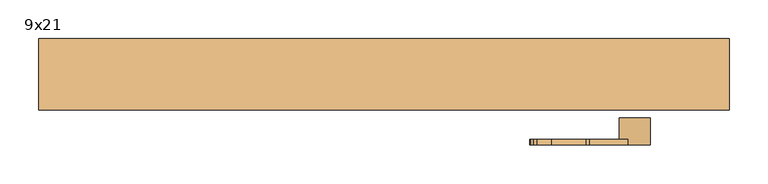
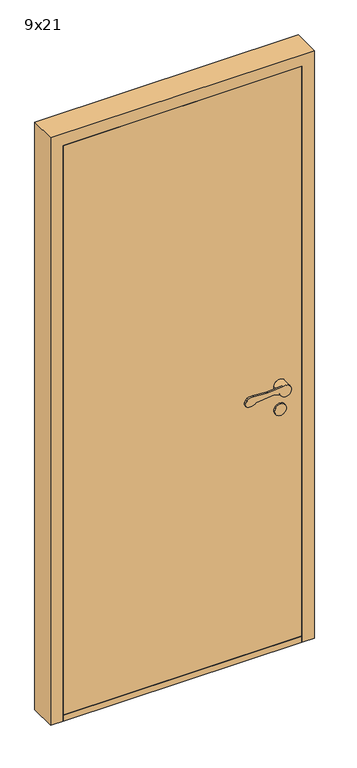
"""IFC4 building model written with IfcOpenShell, lengths in millimetres: door geometry, Innerdør Slett (Diplomat) : 9x21."""

from ifc_helpers import new_model, si_unit, point, frame, frame_2d, origin, origin_with_axes, place, context, project, spatial, polyline, circle_curve, trimmed, segment, composite_curve, outline, extrude, source, transform, mapped, element, save
from ifc_brep_helpers import plane_surface, cylinder_surface, revolved_surface, advanced_brep


def door_9x21_44255de1(model_context):
    return source(origin(), model_context, "Body", "SolidModel", [
        advanced_brep(
        [(343.9611305, 30.0, 949.1175955), (338.8520664, 30.0, 949.9496913), (276.0476109, 30.0, 943.6260011), (246.721536, 30.0, 938.7393398), (241.8691983, 30.0, 951.8913379), (245.505009, 30.0, 959.9624074), (250.3175669, 30.0, 964.8810513), (268.8963175, 30.0, 967.2639242), (313.6202158, 30.0, 964.1804415), (318.6891233, 30.0, 964.26032), (367.2687793, 30.0, 969.1517356), (396.379633, 30.0, 951.3474568), (358.3841161, 30.0, 942.6204086), (318.6891233, 22.8915284, 964.26032), (313.6202158, 22.8915284, 964.1804415), (268.8963175, 22.8915284, 967.2639242), (250.3175669, 22.8915284, 964.8810513), (245.505009, 22.8915284, 959.9624074), (241.8691983, 22.8915284, 951.8913379), (246.721536, 22.8915284, 938.7393398), (276.0476109, 22.8915284, 943.6260011), (338.8520664, 22.8915284, 949.9496913), (343.9611305, 22.8915284, 949.1175955), (358.3841161, 22.8915284, 942.6204086), (356.379633, 22.8915284, 951.3474568), (367.2687793, 22.8915284, 969.1517356), (396.379633, -5.0, 951.3474568), (356.379633, -5.0, 951.3474568)],
        [
            (0, 1, circle_curve(frame((339.8538865, 30.0, 940.0), z_axis=(0.0, -1.0, 0.0), x_axis=(-0.9949691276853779, 0.0, -0.10018200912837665)), 10.0)),
            (1, 2),
            (2, 3, circle_curve(frame((257.8569644, 30.0, 962.352734), z_axis=(0.0, 1.0, 0.0), x_axis=(-0.9949691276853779, 0.0, -0.10018200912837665)), 26.1072815)),
            (3, 4, circle_curve(frame((250.9867937, 30.0, 947.7840939), z_axis=(0.0, 1.0, 0.0), x_axis=(-0.9949691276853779, 0.0, -0.10018200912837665)), 10.0)),
            (4, 5),
            (5, 6, circle_curve(frame((254.6226045, 30.0, 955.8551634), z_axis=(0.0, 1.0, 0.0), x_axis=(-0.9949691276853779, 0.0, -0.10018200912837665)), 10.0)),
            (6, 7, circle_curve(frame((263.2326797, 30.0, 937.8033877), z_axis=(0.0, 1.0, 0.0), x_axis=(-0.9949691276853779, 0.0, -0.10018200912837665)), 30.0)),
            (7, 8),
            (8, 9, circle_curve(frame((315.683663, 30.0, 994.1093938), z_axis=(0.0, -1.0, 0.0), x_axis=(-0.9949691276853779, 0.0, -0.10018200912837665)), 30.0)),
            (9, 10),
            (10, 11, circle_curve(frame((376.379633, 30.0, 951.3474568), z_axis=(0.0, 1.0, 0.0), x_axis=(-1.0, 0.0, 0.0)), 20.0)),
            (11, 12, circle_curve(frame((376.379633, 30.0, 951.3474568), z_axis=(0.0, 1.0, 0.0), x_axis=(-1.0, 0.0, 0.0)), 20.0)),
            (12, 0),
            (13, 14, circle_curve(frame((315.683663, 22.8915284, 994.1093938), z_axis=(0.0, 1.0, 0.0), x_axis=(-0.9949691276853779, 0.0, -0.10018200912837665)), 30.0)),
            (14, 15),
            (15, 16, circle_curve(frame((263.2326797, 22.8915284, 937.8033877), z_axis=(0.0, -1.0, 0.0), x_axis=(-0.9949691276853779, 0.0, -0.10018200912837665)), 30.0)),
            (16, 17, circle_curve(frame((254.6226045, 22.8915284, 955.8551634), z_axis=(0.0, -1.0, 0.0), x_axis=(-0.9949691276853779, 0.0, -0.10018200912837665)), 10.0)),
            (17, 18),
            (18, 19, circle_curve(frame((250.9867937, 22.8915284, 947.7840939), z_axis=(0.0, -1.0, 0.0), x_axis=(-0.9949691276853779, 0.0, -0.10018200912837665)), 10.0)),
            (19, 20, circle_curve(frame((257.8569644, 22.8915284, 962.352734), z_axis=(0.0, -1.0, 0.0), x_axis=(-0.9949691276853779, 0.0, -0.10018200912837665)), 26.1072815)),
            (20, 21),
            (21, 22, circle_curve(frame((339.8538865, 22.8915284, 940.0), z_axis=(0.0, 1.0, 0.0), x_axis=(-0.9949691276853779, 0.0, -0.10018200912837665)), 10.0)),
            (22, 23),
            (23, 24, circle_curve(frame((376.379633, 22.8915284, 951.3474568), z_axis=(0.0, 1.0, 0.0), x_axis=(-1.0, 0.0, 0.0)), 20.0)),
            (24, 25, circle_curve(frame((376.379633, 22.8915284, 951.3474568), z_axis=(0.0, 1.0, 0.0), x_axis=(-1.0, 0.0, 0.0)), 20.0)),
            (25, 13),
            (9, 13),
            (25, 10),
            (22, 0),
            (12, 23),
            (21, 1),
            (20, 2),
            (19, 3),
            (18, 4),
            (17, 5),
            (16, 6),
            (15, 7),
            (14, 8),
            (26, 27, circle_curve(frame((376.379633, -5.0, 951.3474568), z_axis=(0.0, -1.0, 0.0), x_axis=(-1.0, 0.0, 0.0)), 20.0)),
            (27, 26, circle_curve(frame((376.379633, -5.0, 951.3474568), z_axis=(0.0, -1.0, 0.0), x_axis=(-1.0, 0.0, 0.0)), 20.0)),
            (27, 24),
            (11, 26),
        ],
        [
            plane_surface(frame((367.6960588, 30.0, 969.1947577), z_axis=(0.0, 1.0000000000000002, 0.0), x_axis=(0.9949691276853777, 0.0, 0.10018200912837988))),
            plane_surface(frame((367.6960588, 22.8915284, 969.1947577), z_axis=(0.0, -1.0000000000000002, 0.0), x_axis=(-0.9949691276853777, 0.0, -0.10018200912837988))),
            plane_surface(frame((318.6891233, 30.0, 964.26032), z_axis=(-0.10018200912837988, 0.0, 0.9949691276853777), x_axis=(0.0, -1.0, 0.0))),
            plane_surface(frame((376.9687366, 30.0, 934.2485115), z_axis=(-0.41072439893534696, 0.0, -0.91175954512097), x_axis=(0.0, -1.0, 0.0))),
            revolved_surface(polyline([(329.9041952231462, 22.8915284, 938.9981799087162), (329.9041952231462, 30.0, 938.9981799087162)]), (339.8538865, 22.8915284, 940.0), (0.0, -1.0, 0.0)),
            plane_surface(frame((338.8520664, 30.0, 949.9496913), z_axis=(0.10018200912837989, 0.0, -0.9949691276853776), x_axis=(0.0, -1.0, 0.0))),
            cylinder_surface(frame((257.8569644, 22.8915284, 962.352734), z_axis=(0.0, 1.0, 0.0), x_axis=(-0.9949691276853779, 0.0, -0.10018200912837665)), 26.1072815),
            cylinder_surface(frame((250.9867937, 22.8915284, 947.7840939), z_axis=(0.0, 1.0, 0.0), x_axis=(-0.9949691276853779, 0.0, -0.10018200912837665)), 10.0),
            plane_surface(frame((241.8691983, 30.0, 951.8913379), z_axis=(-0.9117595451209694, 0.0, 0.41072439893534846), x_axis=(0.0, -1.0, 0.0))),
            cylinder_surface(frame((254.6226045, 22.8915284, 955.8551634), z_axis=(0.0, 1.0, 0.0), x_axis=(-0.9949691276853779, 0.0, -0.10018200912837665)), 10.0),
            cylinder_surface(frame((263.2326797, 22.8915284, 937.8033877), z_axis=(0.0, 1.0, 0.0), x_axis=(-0.9949691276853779, 0.0, -0.10018200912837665)), 30.0),
            plane_surface(frame((268.8963175, 30.0, 967.2639242), z_axis=(0.06878157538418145, 0.0, 0.9976317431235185), x_axis=(0.0, -1.0, 0.0))),
            revolved_surface(polyline([(285.8345891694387, 22.8915284, 991.1039335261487), (285.8345891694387, 30.0, 991.1039335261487)]), (315.683663, 22.8915284, 994.1093938), (0.0, -1.0, 0.0)),
            plane_surface(frame((356.379633, -5.0, 951.3474568), z_axis=(0.0, -1.0, 0.0), x_axis=(0.0, 0.0, -1.0))),
            cylinder_surface(frame((376.379633, -5.0, 951.3474568), z_axis=(0.0, 1.0, 0.0), x_axis=(-1.0, 0.0, 0.0)), 20.0),
        ],
        [
            (0, [[1, 2, 3, 4, 5, 6, 7, 8, 9, 10, 11, 12, 13]]),
            (1, [[14, 15, 16, 17, 18, 19, 20, 21, 22, 23, 24, 25, 26]]),
            (2, [[27, -26, 28, -10]]),
            (3, [[29, -13, 30, -23]]),
            (4, [[-1, -29, -22, 31]]),
            (5, [[-2, -31, -21, 32]]),
            (6, [[-3, -32, -20, 33]]),
            (7, [[-4, -33, -19, 34]]),
            (8, [[-5, -34, -18, 35]]),
            (9, [[-6, -35, -17, 36]]),
            (10, [[-7, -36, -16, 37]]),
            (11, [[-8, -37, -15, 38]]),
            (12, [[-9, -38, -14, -27]]),
            (13, [[39, 40]]),
            (14, [[-40, 41, -24, -30, -12, 42]]),
            (14, [[-39, -42, -11, -28, -25, -41]]),
        ],
    ),
        extrude(outline(composite_curve([segment(trimmed(circle_curve(frame_2d((866.3474568, 376.379633)), 20.0), [point((866.3474568, 396.379633))], [point((866.3474568, 356.379633))], False, "CARTESIAN"), True, "CONTINUOUS"), segment(trimmed(circle_curve(frame_2d((866.3474568, 376.379633)), 20.0), [point((866.3474568, 356.379633))], [point((866.3474568, 396.379633))], False, "CARTESIAN"), True, "CONTINUOUS")], self_intersect=False)), frame((0.0, -5.0, 0.0), z_axis=(0.0, 1.0, 0.0), x_axis=(0.0, 0.0, 1.0)), (0.0, 0.0, 1.0), 5.0),
        advanced_brep(
        [(343.9611305, -100.0, 949.1175955), (358.3841161, -100.0, 942.6204086), (396.379633, -100.0, 951.3474568), (367.2687793, -100.0, 969.1517356), (318.6891233, -100.0, 964.26032), (313.6202158, -100.0, 964.1804415), (268.8963175, -100.0, 967.2639242), (250.3175669, -100.0, 964.8810513), (245.505009, -100.0, 959.9624074), (241.8691983, -100.0, 951.8913379), (246.721536, -100.0, 938.7393398), (276.0476109, -100.0, 943.6260011), (338.8520664, -100.0, 949.9496913), (318.6891233, -92.8915284, 964.26032), (367.2687793, -92.8915284, 969.1517356), (356.379633, -92.8915284, 951.3474568), (358.3841161, -92.8915284, 942.6204086), (343.9611305, -92.8915284, 949.1175955), (338.8520664, -92.8915284, 949.9496913), (276.0476109, -92.8915284, 943.6260011), (246.721536, -92.8915284, 938.7393398), (241.8691983, -92.8915284, 951.8913379), (245.505009, -92.8915284, 959.9624074), (250.3175669, -92.8915284, 964.8810513), (268.8963175, -92.8915284, 967.2639242), (313.6202158, -92.8915284, 964.1804415), (396.379633, -65.0, 951.3474568), (356.379633, -65.0, 951.3474568)],
        [
            (0, 1),
            (1, 2, circle_curve(frame((376.379633, -100.0, 951.3474568), z_axis=(0.0, -1.0, 0.0), x_axis=(-1.0, 0.0, 0.0)), 20.0)),
            (2, 3, circle_curve(frame((376.379633, -100.0, 951.3474568), z_axis=(0.0, -1.0, 0.0), x_axis=(-1.0, 0.0, 0.0)), 20.0)),
            (3, 4),
            (4, 5, circle_curve(frame((315.683663, -100.0, 994.1093938), z_axis=(0.0, 1.0, 0.0), x_axis=(-0.9949691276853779, 0.0, -0.10018200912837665)), 30.0)),
            (5, 6),
            (6, 7, circle_curve(frame((263.2326797, -100.0, 937.8033877), z_axis=(0.0, -1.0, 0.0), x_axis=(-0.9949691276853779, 0.0, -0.10018200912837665)), 30.0)),
            (7, 8, circle_curve(frame((254.6226045, -100.0, 955.8551634), z_axis=(0.0, -1.0, 0.0), x_axis=(-0.9949691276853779, 0.0, -0.10018200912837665)), 10.0)),
            (8, 9),
            (9, 10, circle_curve(frame((250.9867937, -100.0, 947.7840939), z_axis=(0.0, -1.0, 0.0), x_axis=(-0.9949691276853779, 0.0, -0.10018200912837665)), 10.0)),
            (10, 11, circle_curve(frame((257.8569644, -100.0, 962.352734), z_axis=(0.0, -1.0, 0.0), x_axis=(-0.9949691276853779, 0.0, -0.10018200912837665)), 26.1072815)),
            (11, 12),
            (12, 0, circle_curve(frame((339.8538865, -100.0, 940.0), z_axis=(0.0, 1.0, 0.0), x_axis=(-0.9949691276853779, 0.0, -0.10018200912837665)), 10.0)),
            (13, 14),
            (14, 15, circle_curve(frame((376.379633, -92.8915284, 951.3474568), z_axis=(0.0, -1.0, 0.0), x_axis=(-1.0, 0.0, 0.0)), 20.0)),
            (15, 16, circle_curve(frame((376.379633, -92.8915284, 951.3474568), z_axis=(0.0, -1.0, 0.0), x_axis=(-1.0, 0.0, 0.0)), 20.0)),
            (16, 17),
            (17, 18, circle_curve(frame((339.8538865, -92.8915284, 940.0), z_axis=(0.0, -1.0, 0.0), x_axis=(-0.9949691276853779, 0.0, -0.10018200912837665)), 10.0)),
            (18, 19),
            (19, 20, circle_curve(frame((257.8569644, -92.8915284, 962.352734), z_axis=(0.0, 1.0, 0.0), x_axis=(-0.9949691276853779, 0.0, -0.10018200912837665)), 26.1072815)),
            (20, 21, circle_curve(frame((250.9867937, -92.8915284, 947.7840939), z_axis=(0.0, 1.0, 0.0), x_axis=(-0.9949691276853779, 0.0, -0.10018200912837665)), 10.0)),
            (21, 22),
            (22, 23, circle_curve(frame((254.6226045, -92.8915284, 955.8551634), z_axis=(0.0, 1.0, 0.0), x_axis=(-0.9949691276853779, 0.0, -0.10018200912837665)), 10.0)),
            (23, 24, circle_curve(frame((263.2326797, -92.8915284, 937.8033877), z_axis=(0.0, 1.0, 0.0), x_axis=(-0.9949691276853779, 0.0, -0.10018200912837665)), 30.0)),
            (24, 25),
            (25, 13, circle_curve(frame((315.683663, -92.8915284, 994.1093938), z_axis=(0.0, -1.0, 0.0), x_axis=(-0.9949691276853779, 0.0, -0.10018200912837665)), 30.0)),
            (3, 14),
            (13, 4),
            (16, 1),
            (0, 17),
            (12, 18),
            (11, 19),
            (10, 20),
            (9, 21),
            (8, 22),
            (7, 23),
            (6, 24),
            (5, 25),
            (26, 27, circle_curve(frame((376.379633, -65.0, 951.3474568), z_axis=(0.0, 1.0, 0.0), x_axis=(-1.0, 0.0, 0.0)), 20.0)),
            (27, 26, circle_curve(frame((376.379633, -65.0, 951.3474568), z_axis=(0.0, 1.0, 0.0), x_axis=(-1.0, 0.0, 0.0)), 20.0)),
            (26, 2),
            (15, 27),
        ],
        [
            plane_surface(frame((367.6960588, -100.0, 969.1947577), z_axis=(0.0, -1.0000000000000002, 0.0), x_axis=(0.9949691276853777, 0.0, 0.10018200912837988))),
            plane_surface(frame((367.6960588, -92.8915284, 969.1947577), z_axis=(0.0, 1.0000000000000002, 0.0), x_axis=(-0.9949691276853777, 0.0, -0.10018200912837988))),
            plane_surface(frame((318.6891233, -100.0, 964.26032), z_axis=(-0.10018200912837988, 0.0, 0.9949691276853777), x_axis=(0.0, 1.0, 0.0))),
            plane_surface(frame((376.9687366, -100.0, 934.2485115), z_axis=(-0.41072439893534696, 0.0, -0.91175954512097), x_axis=(0.0, 1.0, 0.0))),
            revolved_surface(polyline([(329.9041952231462, -92.8915284, 938.9981799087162), (329.9041952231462, -100.0, 938.9981799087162)]), (339.8538865, -92.8915284, 940.0), (0.0, 1.0, 0.0)),
            plane_surface(frame((338.8520664, -100.0, 949.9496913), z_axis=(0.10018200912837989, 0.0, -0.9949691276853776), x_axis=(0.0, 1.0, 0.0))),
            cylinder_surface(frame((257.8569644, -92.8915284, 962.352734), z_axis=(0.0, -1.0, 0.0), x_axis=(-0.9949691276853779, 0.0, -0.10018200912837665)), 26.1072815),
            cylinder_surface(frame((250.9867937, -92.8915284, 947.7840939), z_axis=(0.0, -1.0, 0.0), x_axis=(-0.9949691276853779, 0.0, -0.10018200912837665)), 10.0),
            plane_surface(frame((241.8691983, -100.0, 951.8913379), z_axis=(-0.9117595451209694, 0.0, 0.41072439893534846), x_axis=(0.0, 1.0, 0.0))),
            cylinder_surface(frame((254.6226045, -92.8915284, 955.8551634), z_axis=(0.0, -1.0, 0.0), x_axis=(-0.9949691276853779, 0.0, -0.10018200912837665)), 10.0),
            cylinder_surface(frame((263.2326797, -92.8915284, 937.8033877), z_axis=(0.0, -1.0, 0.0), x_axis=(-0.9949691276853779, 0.0, -0.10018200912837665)), 30.0),
            plane_surface(frame((268.8963175, -100.0, 967.2639242), z_axis=(0.06878157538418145, 0.0, 0.9976317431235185), x_axis=(0.0, 1.0, 0.0))),
            revolved_surface(polyline([(285.8345891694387, -92.8915284, 991.1039335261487), (285.8345891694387, -100.0, 991.1039335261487)]), (315.683663, -92.8915284, 994.1093938), (0.0, 1.0, 0.0)),
            plane_surface(frame((356.379633, -65.0, 951.3474568), z_axis=(0.0, 1.0, 0.0), x_axis=(0.0, 0.0, -1.0))),
            cylinder_surface(frame((376.379633, -65.0, 951.3474568), z_axis=(0.0, -1.0, 0.0), x_axis=(-1.0, 0.0, 0.0)), 20.0),
        ],
        [
            (0, [[1, 2, 3, 4, 5, 6, 7, 8, 9, 10, 11, 12, 13]]),
            (1, [[14, 15, 16, 17, 18, 19, 20, 21, 22, 23, 24, 25, 26]]),
            (2, [[-4, 27, -14, 28]]),
            (3, [[-17, 29, -1, 30]]),
            (4, [[31, -18, -30, -13]]),
            (5, [[32, -19, -31, -12]]),
            (6, [[33, -20, -32, -11]]),
            (7, [[34, -21, -33, -10]]),
            (8, [[35, -22, -34, -9]]),
            (9, [[36, -23, -35, -8]]),
            (10, [[37, -24, -36, -7]]),
            (11, [[38, -25, -37, -6]]),
            (12, [[-28, -26, -38, -5]]),
            (13, [[39, 40]]),
            (14, [[41, -2, -29, -16, 42, -39]]),
            (14, [[-42, -15, -27, -3, -41, -40]]),
        ],
    ),
        extrude(outline(composite_curve([segment(trimmed(circle_curve(frame_2d((866.3474568, 376.379633)), 20.0), [point((866.3474568, 396.379633))], [point((866.3474568, 356.379633))], False, "CARTESIAN"), True, "CONTINUOUS"), segment(trimmed(circle_curve(frame_2d((866.3474568, 376.379633)), 20.0), [point((866.3474568, 356.379633))], [point((866.3474568, 396.379633))], False, "CARTESIAN"), True, "CONTINUOUS")], self_intersect=False)), frame((0.0, -70.0, 0.0), z_axis=(0.0, 1.0, 0.0), x_axis=(0.0, 0.0, 1.0)), (0.0, 0.0, 1.0), 5.0),
        extrude(outline(polyline([(456.379633, 37.0), (456.379633, -55.0), (-349.620367, -55.0), (-349.620367, 37.0), (456.379633, 37.0)])), origin_with_axes(), (0.0, 0.0, 1.0), 22.0),
        extrude(outline(polyline([(456.379633, -5.0), (456.379633, -55.0), (-349.620367, -55.0), (-349.620367, -5.0), (456.379633, -5.0)])), frame((0.0, 0.0, 22.0), z_axis=(0.0, 0.0, 1.0), x_axis=(1.0, 0.0, 0.0)), (0.0, 0.0, 1.0), 2031.0),
        extrude(outline(polyline([(0.0, -349.620367), (2053.0, -349.620367), (2053.0, 456.379633), (0.0, 456.379633), (0.0, 498.379633), (2095.0, 498.379633), (2095.0, -391.620367), (0.0, -391.620367), (0.0, -349.620367)])), frame((0.0, -55.0, 0.0), z_axis=(0.0, 1.0, 0.0), x_axis=(0.0, 0.0, 1.0)), (0.0, 0.0, 1.0), 92.0),
    ])


if __name__ == "__main__":
    model = new_model("IFC4")
    model_context = context("Model", 3, world=origin())
    ifc_project = project(units=[si_unit("LENGTHUNIT", "METRE", prefix="MILLI")], contexts=[model_context])
    site = spatial("IfcSite", under=ifc_project)
    building = spatial("IfcBuilding", under=site)
    placement = place(None, origin())
    door_9x21_shape = door_9x21_44255de1(model_context)
    element("IfcDoor", 1, ObjectType="Innerdør Slett (Diplomat) : 9x21", at=placement, inside=building, context=model_context, shape_type="MappedRepresentation", body=[
        mapped(door_9x21_shape, transform((0.0, 0.0, 0.0), x_axis=(1.0, 0.0, 0.0), y_axis=(0.0, 1.0, 0.0), z_axis=(0.0, 0.0, 1.0))),
    ])
    save(model, "model.ifc")
